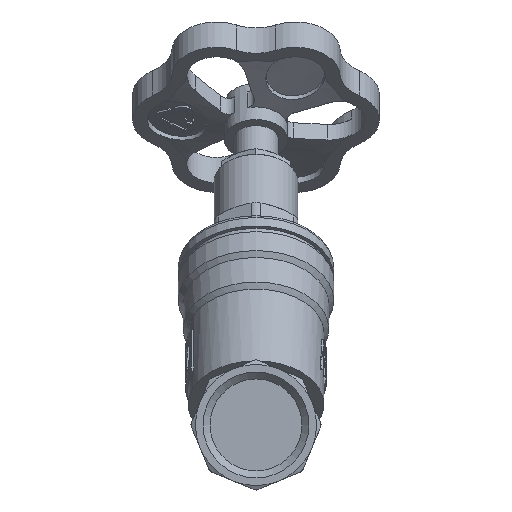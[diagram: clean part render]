
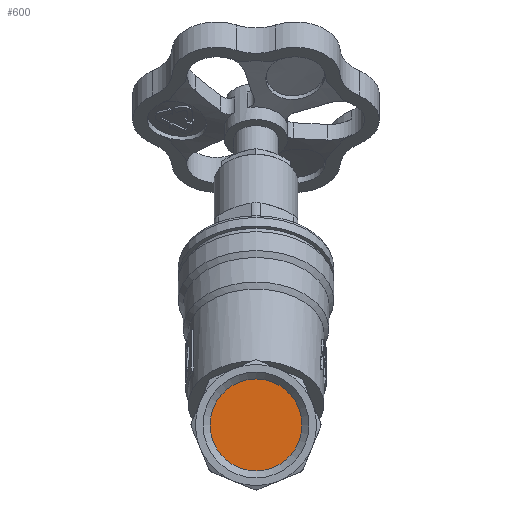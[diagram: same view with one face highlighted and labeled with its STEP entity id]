
A CAD part, front view. The second image highlights one B-rep face of the part: STEP entity #600.
In plain terms, the highlighted planar face has unit normal (0, -1, 0).
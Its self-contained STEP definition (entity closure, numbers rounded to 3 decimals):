
#600=ADVANCED_FACE('',(#4572),#4574,.T.);
#4572=FACE_BOUND('',#4573,.T.);
#4573=EDGE_LOOP('',(#7813));
#4574=PLANE('',#4575);
#4575=AXIS2_PLACEMENT_3D('',#4576,#4577,#4578);
#4576=CARTESIAN_POINT('',(0.,-6.5,0.));
#4577=DIRECTION('',(0.,-1.,0.));
#4578=DIRECTION('',(1.,0.,0.));
#7813=ORIENTED_EDGE('',*,*,#9291,.T.);
#9291=EDGE_CURVE('',#11692,#11692,#11693,.T.);
#11692=VERTEX_POINT('',#29325);
#11693=CIRCLE('',#29326,9.316);
#29325=CARTESIAN_POINT('',(9.316,-6.5,0.));
#29326=AXIS2_PLACEMENT_3D('',#29327,#29328,#29329);
#29327=CARTESIAN_POINT('',(0.,-6.5,0.));
#29328=DIRECTION('',(0.,-1.,0.));
#29329=DIRECTION('',(1.,0.,0.));
